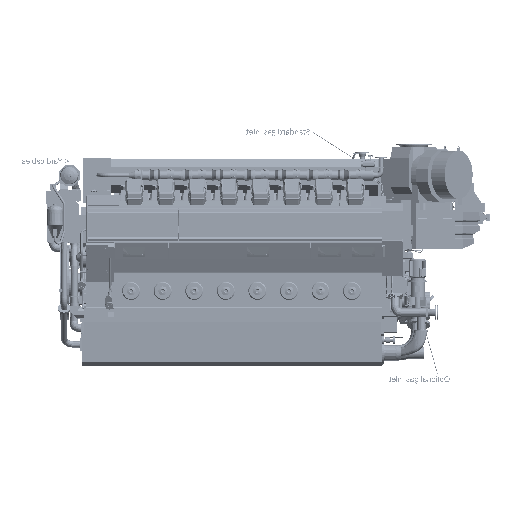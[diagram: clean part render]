
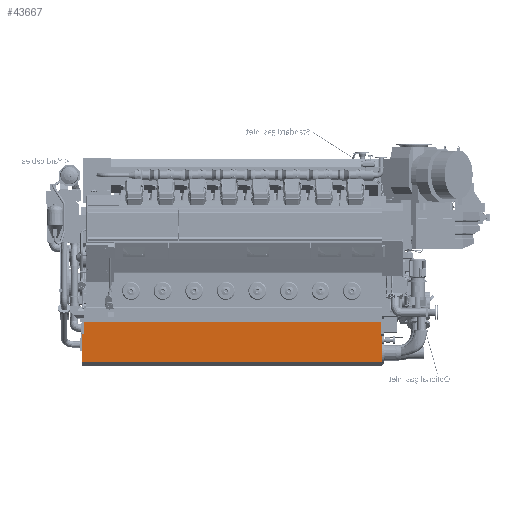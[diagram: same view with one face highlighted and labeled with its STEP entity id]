
A CAD part, front view. The second image highlights one B-rep face of the part: STEP entity #43667.
In plain terms, the highlighted planar face has unit normal (0, -0.999, -0.052).
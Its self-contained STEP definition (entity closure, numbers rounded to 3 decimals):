
#32028=PLANE('',#321379);
#43667=ADVANCED_FACE('',(#65478),#32028,.F.);
#65478=FACE_OUTER_BOUND('',#83635,.T.);
#83635=EDGE_LOOP('',(#175767,#175768,#175769,#175770,#175771,#175772,#175773,
#175774,#175775,#175776,#175777,#175778));
#108195=LINE('',#496273,#132746);
#108226=LINE('',#496355,#132777);
#108227=LINE('',#496359,#132778);
#108231=LINE('',#496371,#132782);
#108232=LINE('',#496374,#132783);
#108233=LINE('',#496375,#132784);
#108234=LINE('',#496376,#132785);
#108235=LINE('',#496377,#132786);
#108236=LINE('',#496379,#132787);
#108237=LINE('',#496381,#132788);
#108238=LINE('',#496383,#132789);
#108239=LINE('',#496385,#132790);
#132746=VECTOR('',#368761,1.);
#132777=VECTOR('',#368820,1.);
#132778=VECTOR('',#368823,1.);
#132782=VECTOR('',#368833,1.);
#132783=VECTOR('',#368834,1.);
#132784=VECTOR('',#368835,1.);
#132785=VECTOR('',#368836,1.);
#132786=VECTOR('',#368837,1.);
#132787=VECTOR('',#368838,1.);
#132788=VECTOR('',#368839,1.);
#132789=VECTOR('',#368840,1.);
#132790=VECTOR('',#368841,1.);
#175767=ORIENTED_EDGE('',*,*,#274278,.F.);
#175768=ORIENTED_EDGE('',*,*,#274279,.T.);
#175769=ORIENTED_EDGE('',*,*,#274228,.F.);
#175770=ORIENTED_EDGE('',*,*,#274280,.T.);
#175771=ORIENTED_EDGE('',*,*,#274272,.T.);
#175772=ORIENTED_EDGE('',*,*,#274281,.T.);
#175773=ORIENTED_EDGE('',*,*,#274270,.T.);
#175774=ORIENTED_EDGE('',*,*,#274282,.F.);
#175775=ORIENTED_EDGE('',*,*,#274283,.F.);
#175776=ORIENTED_EDGE('',*,*,#274284,.F.);
#175777=ORIENTED_EDGE('',*,*,#274285,.T.);
#175778=ORIENTED_EDGE('',*,*,#274286,.F.);
#241917=VERTEX_POINT('',#496272);
#241918=VERTEX_POINT('',#496274);
#241954=VERTEX_POINT('',#496354);
#241955=VERTEX_POINT('',#496356);
#241956=VERTEX_POINT('',#496358);
#241957=VERTEX_POINT('',#496360);
#241962=VERTEX_POINT('',#496372);
#241963=VERTEX_POINT('',#496373);
#241964=VERTEX_POINT('',#496378);
#241965=VERTEX_POINT('',#496380);
#241966=VERTEX_POINT('',#496382);
#241967=VERTEX_POINT('',#496384);
#274228=EDGE_CURVE('',#241917,#241918,#108195,.T.);
#274270=EDGE_CURVE('',#241955,#241954,#108226,.T.);
#274272=EDGE_CURVE('',#241957,#241956,#108227,.T.);
#274278=EDGE_CURVE('',#241962,#241963,#108231,.T.);
#274279=EDGE_CURVE('',#241962,#241918,#108232,.T.);
#274280=EDGE_CURVE('',#241917,#241957,#108233,.T.);
#274281=EDGE_CURVE('',#241956,#241955,#108234,.T.);
#274282=EDGE_CURVE('',#241964,#241954,#108235,.T.);
#274283=EDGE_CURVE('',#241965,#241964,#108236,.T.);
#274284=EDGE_CURVE('',#241966,#241965,#108237,.T.);
#274285=EDGE_CURVE('',#241966,#241967,#108238,.T.);
#274286=EDGE_CURVE('',#241963,#241967,#108239,.T.);
#321379=AXIS2_PLACEMENT_3D('',#496386,#368842,#368843);
#368761=DIRECTION('',(0.,-0.052,0.999));
#368820=DIRECTION('',(0.,-0.052,0.999));
#368823=DIRECTION('',(0.,-0.052,0.999));
#368833=DIRECTION('',(0.,-0.052,0.999));
#368834=DIRECTION('',(-1.,0.,0.));
#368835=DIRECTION('',(1.,0.,0.));
#368836=DIRECTION('',(0.,-0.052,0.999));
#368837=DIRECTION('',(1.,0.,0.));
#368838=DIRECTION('',(0.,0.052,-0.999));
#368839=DIRECTION('',(1.,0.,0.));
#368840=DIRECTION('',(0.,0.052,-0.999));
#368841=DIRECTION('',(1.,0.,0.));
#368842=DIRECTION('',(0.,0.999,0.052));
#368843=DIRECTION('',(0.,-0.052,0.999));
#496272=CARTESIAN_POINT('',(-5335.,-519.799,-1402.936));
#496273=CARTESIAN_POINT('',(-5335.,-519.799,-1402.936));
#496274=CARTESIAN_POINT('',(-5335.,-545.423,-914.));
#496354=CARTESIAN_POINT('',(0.,-543.66,-947.642));
#496355=CARTESIAN_POINT('',(0.,-519.799,-1402.936));
#496356=CARTESIAN_POINT('',(0.,-542.122,-976.978));
#496358=CARTESIAN_POINT('',(0.,-537.389,-1067.285));
#496359=CARTESIAN_POINT('',(0.,-519.799,-1402.936));
#496360=CARTESIAN_POINT('',(0.,-519.799,-1402.936));
#496371=CARTESIAN_POINT('',(-5330.,-519.799,-1402.936));
#496372=CARTESIAN_POINT('',(-5330.,-545.423,-914.));
#496373=CARTESIAN_POINT('',(-5330.,-545.632,-910.));
#496374=CARTESIAN_POINT('',(-5335.,-545.423,-914.));
#496375=CARTESIAN_POINT('',(-5335.,-519.799,-1402.936));
#496376=CARTESIAN_POINT('',(0.,-519.799,-1402.936));
#496377=CARTESIAN_POINT('',(-30.,-543.66,-947.642));
#496378=CARTESIAN_POINT('',(-30.,-543.66,-947.642));
#496379=CARTESIAN_POINT('',(-30.,-556.9,-695.));
#496380=CARTESIAN_POINT('',(-30.,-556.9,-695.));
#496381=CARTESIAN_POINT('',(-5335.,-556.9,-695.));
#496382=CARTESIAN_POINT('',(-5300.,-556.9,-695.));
#496383=CARTESIAN_POINT('',(-5300.,-519.799,-1402.936));
#496384=CARTESIAN_POINT('',(-5300.,-545.632,-910.));
#496385=CARTESIAN_POINT('',(-5335.,-545.632,-910.));
#496386=CARTESIAN_POINT('',(-5335.,-519.799,-1402.936));
